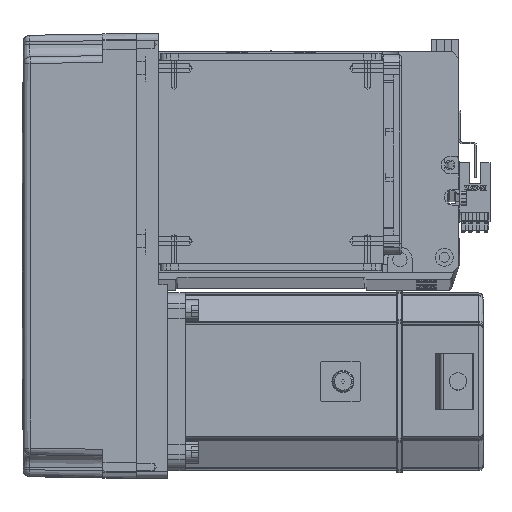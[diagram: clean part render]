
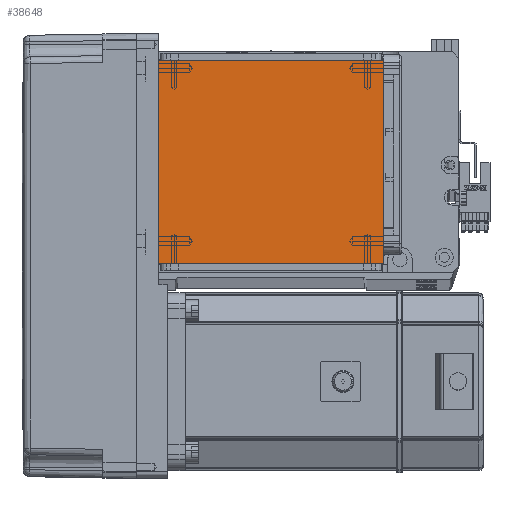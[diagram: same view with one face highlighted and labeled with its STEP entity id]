
A CAD part, top view. The second image highlights one B-rep face of the part: STEP entity #38648.
In plain terms, the highlighted planar face has unit normal (0, 0, 1).
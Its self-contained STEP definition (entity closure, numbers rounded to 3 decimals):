
#1658 = CARTESIAN_POINT ( 'NONE',  ( 50.5, 122., 115. ) ) ;
#3968 = DIRECTION ( 'NONE',  ( 0., 0., 1. ) ) ;
#4091 = ORIENTED_EDGE ( 'NONE', *, *, #17350, .F. ) ;
#5311 = ORIENTED_EDGE ( 'NONE', *, *, #35948, .T. ) ;
#5677 = DIRECTION ( 'NONE',  ( 0., -1., 0. ) ) ;
#7988 = AXIS2_PLACEMENT_3D ( 'NONE', #20022, #3968, #34362 ) ;
#8767 = VERTEX_POINT ( 'NONE', #16140 ) ;
#11869 = EDGE_LOOP ( 'NONE', ( #65164, #5311, #4091, #64314 ) ) ;
#12252 = LINE ( 'NONE', #1658, #60156 ) ;
#13782 = DIRECTION ( 'NONE',  ( 1., 0., 0. ) ) ;
#16140 = CARTESIAN_POINT ( 'NONE',  ( 50.5, 111.5, 115. ) ) ;
#16195 = DIRECTION ( 'NONE',  ( 0., 1., 0. ) ) ;
#17350 = EDGE_CURVE ( 'NONE', #34677, #17531, #39182, .T. ) ;
#17531 = VERTEX_POINT ( 'NONE', #18639 ) ;
#18639 = CARTESIAN_POINT ( 'NONE',  ( -50.5, 20., 115. ) ) ;
#19974 = LINE ( 'NONE', #43014, #57681 ) ;
#20022 = CARTESIAN_POINT ( 'NONE',  ( 0., 0., 115. ) ) ;
#22831 = FACE_OUTER_BOUND ( 'NONE', #11869, .T. ) ;
#25554 = VECTOR ( 'NONE', #5677, 1000. ) ;
#28099 = CARTESIAN_POINT ( 'NONE',  ( -70.004, 20., 115. ) ) ;
#28967 = VECTOR ( 'NONE', #37999, 1000. ) ;
#34362 = DIRECTION ( 'NONE',  ( 1., 0., 0. ) ) ;
#34677 = VERTEX_POINT ( 'NONE', #45384 ) ;
#35948 = EDGE_CURVE ( 'NONE', #50873, #17531, #53827, .T. ) ;
#36181 = EDGE_CURVE ( 'NONE', #50873, #8767, #19974, .T. ) ;
#37999 = DIRECTION ( 'NONE',  ( -1., 0., 0. ) ) ;
#38648 = ADVANCED_FACE ( 'NONE', ( #22831 ), #44431, .T. ) ;
#39182 = LINE ( 'NONE', #28099, #28967 ) ;
#39364 = CARTESIAN_POINT ( 'NONE',  ( -50.5, 111.5, 115. ) ) ;
#41487 = CARTESIAN_POINT ( 'NONE',  ( -50.5, 122., 115. ) ) ;
#43014 = CARTESIAN_POINT ( 'NONE',  ( -70.004, 111.5, 115. ) ) ;
#44431 = PLANE ( 'NONE',  #7988 ) ;
#45384 = CARTESIAN_POINT ( 'NONE',  ( 50.5, 20., 115. ) ) ;
#50873 = VERTEX_POINT ( 'NONE', #39364 ) ;
#53827 = LINE ( 'NONE', #41487, #25554 ) ;
#57681 = VECTOR ( 'NONE', #13782, 1000. ) ;
#60156 = VECTOR ( 'NONE', #16195, 1000. ) ;
#61858 = EDGE_CURVE ( 'NONE', #34677, #8767, #12252, .T. ) ;
#64314 = ORIENTED_EDGE ( 'NONE', *, *, #61858, .T. ) ;
#65164 = ORIENTED_EDGE ( 'NONE', *, *, #36181, .F. ) ;
